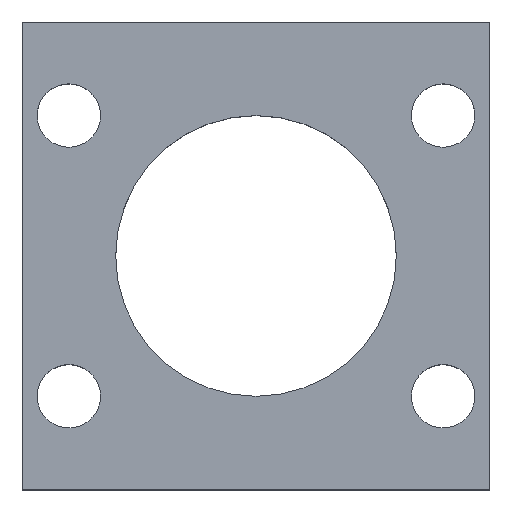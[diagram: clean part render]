
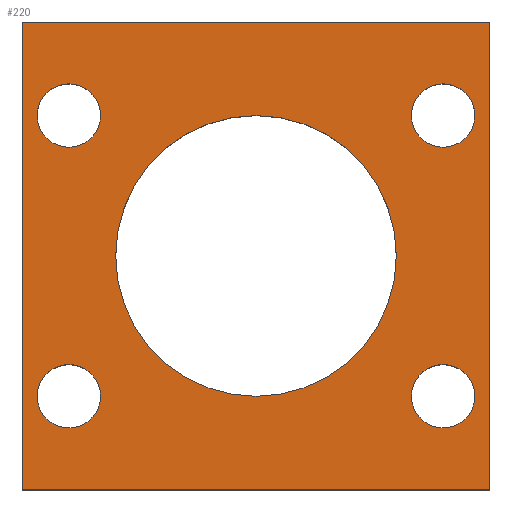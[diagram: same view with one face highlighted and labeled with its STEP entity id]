
A CAD part, top view. The second image highlights one B-rep face of the part: STEP entity #220.
In plain terms, the highlighted planar face has unit normal (0, 0, 1).
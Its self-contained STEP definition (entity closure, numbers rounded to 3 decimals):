
#15=FACE_BOUND('',#52,.T.);
#16=FACE_BOUND('',#53,.T.);
#17=FACE_BOUND('',#54,.T.);
#18=FACE_BOUND('',#55,.T.);
#19=FACE_BOUND('',#56,.T.);
#29=PLANE('',#255);
#40=FACE_OUTER_BOUND('',#51,.T.);
#51=EDGE_LOOP('',(#188,#189,#190,#191));
#52=EDGE_LOOP('',(#192));
#53=EDGE_LOOP('',(#193));
#54=EDGE_LOOP('',(#194));
#55=EDGE_LOOP('',(#195));
#56=EDGE_LOOP('',(#196));
#68=LINE('',#352,#85);
#72=LINE('',#360,#89);
#75=LINE('',#366,#92);
#78=LINE('',#371,#95);
#85=VECTOR('',#296,10.);
#89=VECTOR('',#302,10.);
#92=VECTOR('',#307,10.);
#95=VECTOR('',#312,10.);
#97=CIRCLE('',#237,3.39);
#99=CIRCLE('',#240,3.39);
#101=CIRCLE('',#243,3.39);
#103=CIRCLE('',#246,3.39);
#106=CIRCLE('',#250,15.);
#107=VERTEX_POINT('',#320);
#109=VERTEX_POINT('',#326);
#111=VERTEX_POINT('',#332);
#113=VERTEX_POINT('',#338);
#116=VERTEX_POINT('',#346);
#117=VERTEX_POINT('',#350);
#118=VERTEX_POINT('',#351);
#121=VERTEX_POINT('',#359);
#123=VERTEX_POINT('',#365);
#125=EDGE_CURVE('',#107,#107,#97,.T.);
#128=EDGE_CURVE('',#109,#109,#99,.T.);
#131=EDGE_CURVE('',#111,#111,#101,.T.);
#134=EDGE_CURVE('',#113,#113,#103,.T.);
#139=EDGE_CURVE('',#116,#116,#106,.T.);
#140=EDGE_CURVE('',#117,#118,#68,.T.);
#144=EDGE_CURVE('',#118,#121,#72,.T.);
#147=EDGE_CURVE('',#121,#123,#75,.T.);
#150=EDGE_CURVE('',#123,#117,#78,.T.);
#188=ORIENTED_EDGE('',*,*,#150,.T.);
#189=ORIENTED_EDGE('',*,*,#140,.T.);
#190=ORIENTED_EDGE('',*,*,#144,.T.);
#191=ORIENTED_EDGE('',*,*,#147,.T.);
#192=ORIENTED_EDGE('',*,*,#125,.T.);
#193=ORIENTED_EDGE('',*,*,#128,.T.);
#194=ORIENTED_EDGE('',*,*,#131,.T.);
#195=ORIENTED_EDGE('',*,*,#134,.T.);
#196=ORIENTED_EDGE('',*,*,#139,.T.);
#220=ADVANCED_FACE('',(#40,#15,#16,#17,#18,#19),#29,.T.);
#237=AXIS2_PLACEMENT_3D('',#321,#261,#262);
#240=AXIS2_PLACEMENT_3D('',#327,#268,#269);
#243=AXIS2_PLACEMENT_3D('',#333,#275,#276);
#246=AXIS2_PLACEMENT_3D('',#339,#282,#283);
#250=AXIS2_PLACEMENT_3D('',#348,#292,#293);
#255=AXIS2_PLACEMENT_3D('',#373,#314,#315);
#261=DIRECTION('center_axis',(0.,0.,-1.));
#262=DIRECTION('ref_axis',(1.,0.,0.));
#268=DIRECTION('center_axis',(0.,0.,-1.));
#269=DIRECTION('ref_axis',(1.,0.,0.));
#275=DIRECTION('center_axis',(0.,0.,-1.));
#276=DIRECTION('ref_axis',(1.,0.,0.));
#282=DIRECTION('center_axis',(0.,0.,-1.));
#283=DIRECTION('ref_axis',(1.,0.,0.));
#292=DIRECTION('center_axis',(0.,0.,-1.));
#293=DIRECTION('ref_axis',(1.,0.,0.));
#296=DIRECTION('',(-1.,0.,0.));
#302=DIRECTION('',(0.,-1.,0.));
#307=DIRECTION('',(1.,0.,0.));
#312=DIRECTION('',(0.,1.,0.));
#314=DIRECTION('center_axis',(0.,0.,1.));
#315=DIRECTION('ref_axis',(1.,0.,0.));
#320=CARTESIAN_POINT('',(16.61,-15.,0.));
#321=CARTESIAN_POINT('Origin',(20.,-15.,0.));
#326=CARTESIAN_POINT('',(-23.39,15.,0.));
#327=CARTESIAN_POINT('Origin',(-20.,15.,0.));
#332=CARTESIAN_POINT('',(16.61,15.,0.));
#333=CARTESIAN_POINT('Origin',(20.,15.,0.));
#338=CARTESIAN_POINT('',(-23.39,-15.,0.));
#339=CARTESIAN_POINT('Origin',(-20.,-15.,0.));
#346=CARTESIAN_POINT('',(-15.,0.,0.));
#348=CARTESIAN_POINT('Origin',(0.,0.,0.));
#350=CARTESIAN_POINT('',(25.,25.,0.));
#351=CARTESIAN_POINT('',(-25.,25.,0.));
#352=CARTESIAN_POINT('',(25.,25.,0.));
#359=CARTESIAN_POINT('',(-25.,-25.,0.));
#360=CARTESIAN_POINT('',(-25.,25.,0.));
#365=CARTESIAN_POINT('',(25.,-25.,0.));
#366=CARTESIAN_POINT('',(-25.,-25.,0.));
#371=CARTESIAN_POINT('',(25.,-25.,0.));
#373=CARTESIAN_POINT('Origin',(0.,0.,0.));
